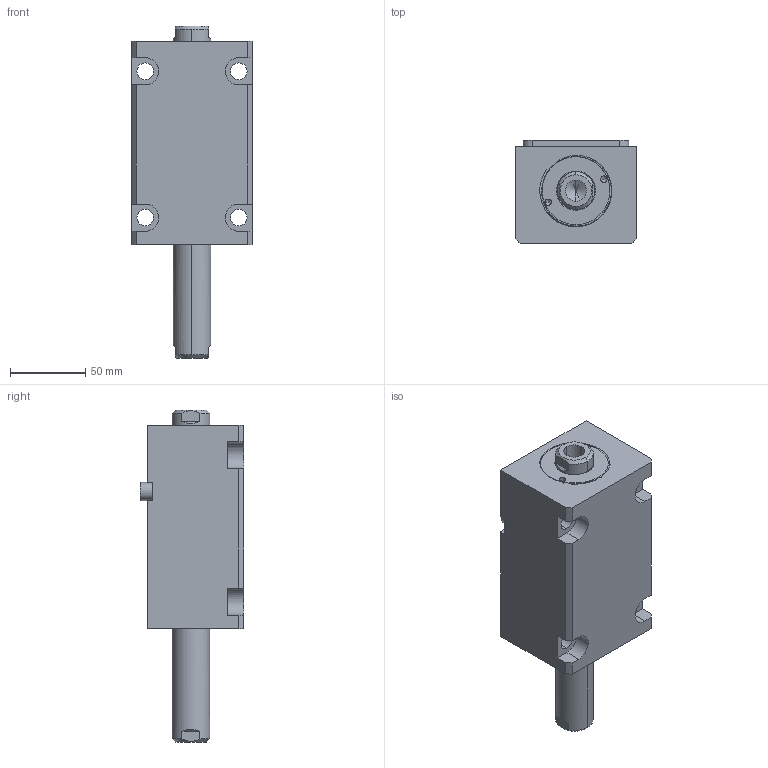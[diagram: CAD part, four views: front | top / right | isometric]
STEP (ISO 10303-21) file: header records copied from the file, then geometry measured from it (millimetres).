
FILE_DESCRIPTION (( 'STEP AP214' ), '1' );
FILE_NAME ('chtb-lwm40x65n_asm.STEP', '2018-05-30T08:24:32', ( 'Windows' ), ( 'Microsoft' ), 'SwSTEP 2.0', 'SolidWorks 2015', '' );
FILE_SCHEMA (( 'AUTOMOTIVE_DESIGN' ));
Length unit declared in the file: millimetre
Products named in the file (5): CHTB-SD40QG; CHTB-LA40PJ; CHTB-SW40X65NHSG; CHTB-LWM40X65NBT; chtb-lwm40x65n_asm
Assembly tree (4 placements, depth 2):
  chtb-lwm40x65n_asm
    CHTB-LWM40X65NBT
    CHTB-SW40X65NHSG
    CHTB-LA40PJ
    CHTB-SD40QG
Bounding box: 80 x 68.5 x 220 mm (x, y, z)
Volume: 641779.3 mm3; surface area: 108531.3 mm2
Topology: 4 solids, 4 shells, 166 faces, 450 edges, 296 vertices
Faces by surface type: cylinder 77, plane 50, bspline 14, cone 13, torus 12
Entity records: 10488 total; most frequent: CARTESIAN_POINT 6156, ORIENTED_EDGE 880, DIRECTION 821, EDGE_CURVE 440, AXIS2_PLACEMENT_3D 326, VERTEX_POINT 296, EDGE_LOOP 196, VECTOR 169
